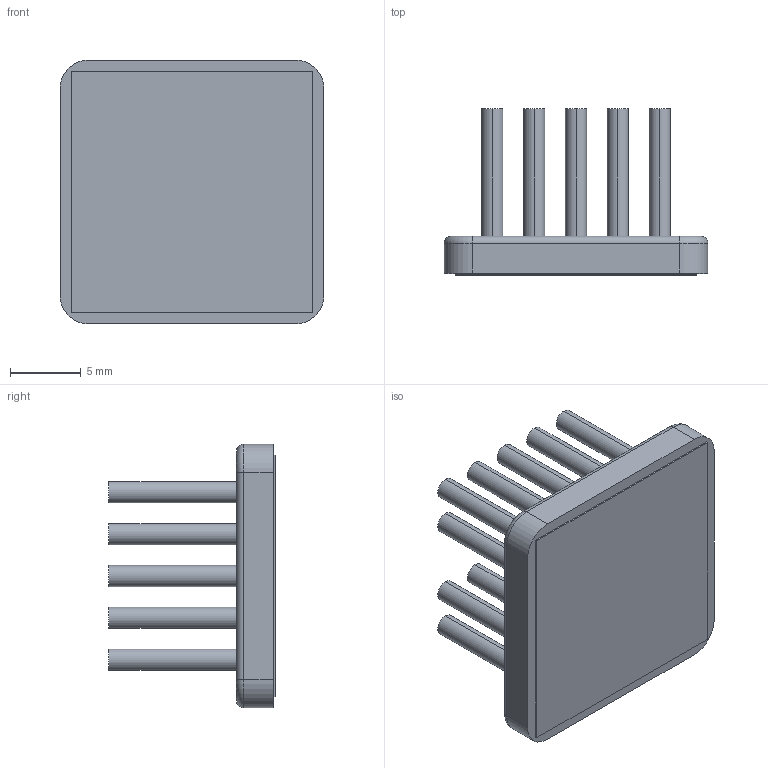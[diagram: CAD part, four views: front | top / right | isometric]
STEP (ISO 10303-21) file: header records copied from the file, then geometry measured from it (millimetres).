
FILE_DESCRIPTION (( 'STEP AP214' ), '1' );
FILE_NAME ('INM19002-12PCU-2.6.STEP', '2023-03-02T22:56:33', ( '' ), ( '' ), 'SwSTEP 2.0', 'SolidWorks 2020', '' );
FILE_SCHEMA (( 'AUTOMOTIVE_DESIGN' ));
Length unit declared in the file: millimetre
Products named in the file (1): INM19002-12PCU-2.6
Bounding box: 18.6 x 11.73 x 18.6 mm (x, y, z)
Volume: 1249.7 mm3; surface area: 2329.7 mm2
Topology: 2 solids, 2 shells, 87 faces, 178 edges, 116 vertices
Faces by surface type: cylinder 50, plane 33, torus 4
Entity records: 3332 total; most frequent: DIRECTION 458, CARTESIAN_POINT 382, ORIENTED_EDGE 356, AXIS2_PLACEMENT_3D 192, EDGE_CURVE 178, VERTEX_POINT 116, EDGE_LOOP 108, CIRCLE 104
